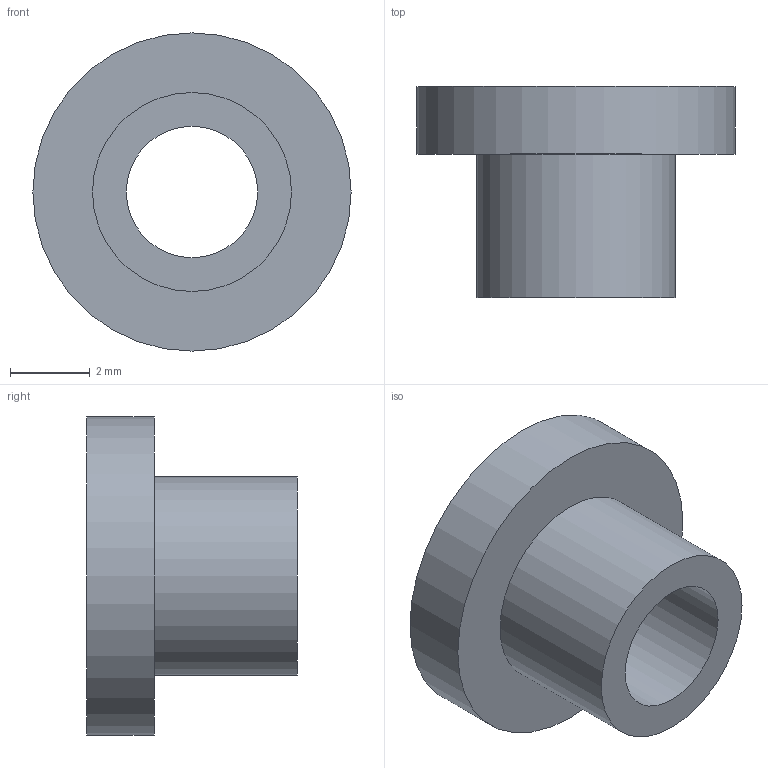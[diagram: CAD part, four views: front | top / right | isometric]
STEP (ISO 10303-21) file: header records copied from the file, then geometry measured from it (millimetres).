
FILE_DESCRIPTION(('Open CASCADE Model'),'2;1');
FILE_NAME('Open CASCADE Shape Model','2026-10-26T16:15:19',('Author'),( 'Open CASCADE'),'Open CASCADE STEP processor 7.8','Open CASCADE 7.8' ,'Unknown');
FILE_SCHEMA(('AUTOMOTIVE_DESIGN { 1 0 10303 214 1 1 1 1 }'));
Length unit declared in the file: millimetre
Products named in the file (1): Open CASCADE STEP translator 7.8 6
Bounding box: 8 x 5.3 x 8 mm (x, y, z)
Volume: 110.8 mm3; surface area: 237.6 mm2
Topology: 1 solids, 1 shells, 6 faces, 9 edges, 6 vertices
Faces by surface type: cylinder 3, plane 3
Full cylindrical faces by diameter (mm): 3.3 x1, 5 x1, 8 x1
Entity records: 270 total; most frequent: DIRECTION 47, CARTESIAN_POINT 40, ORIENTED_EDGE 18, PCURVE 18, DEFINITIONAL_REPRESENTATION 18, LINE 15, VECTOR 15, AXIS2_PLACEMENT_3D 13
